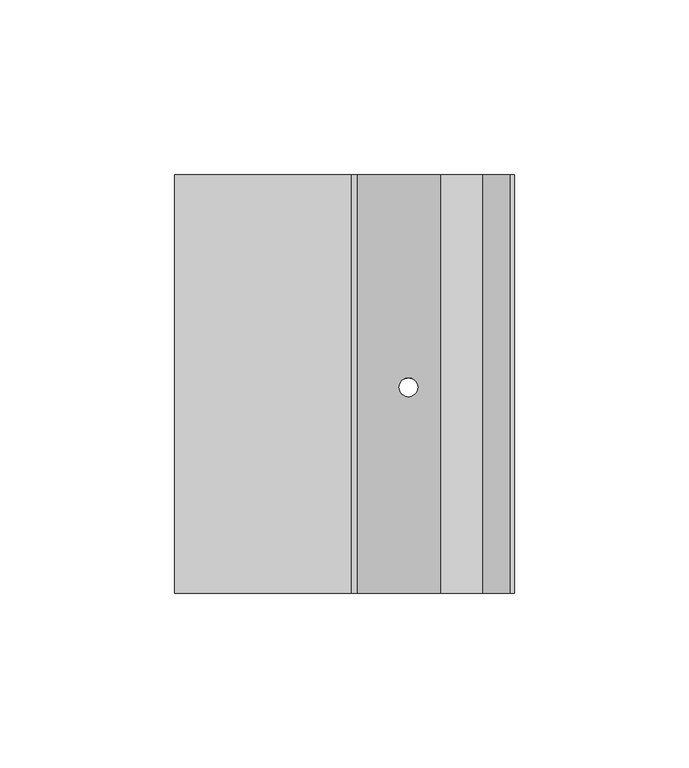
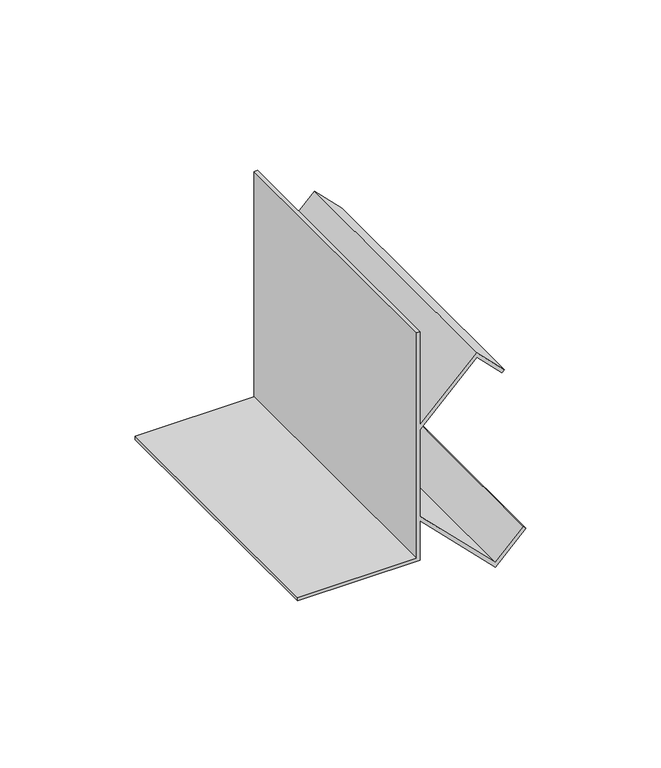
"""IFC4 building model written with IfcOpenShell, lengths in millimetres: proxy geometry, Mechanical Fittings & Accessories32 : Mechanical Fittings & Accessories."""

from ifc_helpers import new_model, si_unit, frame, origin, place, context, project, spatial, polyline, ellipse_curve, source, transform, mapped, element, save
from ifc_brep_helpers import plane_surface, revolved_surface, advanced_brep


def generic_models_84ba3c52(model_context):
    return source(origin(), model_context, "Body", "AdvancedBrep", [
        advanced_brep(
        [(-14670.9639562, 2079.4963986, 4114.8), (-14721.7639562, 2079.4963986, 4114.8), (-14721.7639562, 2079.4963986, 4113.3117188), (-14669.475675, 2079.4963986, 4113.3117188), (-14669.475675, 2079.4963986, 4131.1383509), (-14637.365914, 2079.4963986, 4099.0285899), (-14624.3869427, 2079.4963986, 4112.0075612), (-14625.4393164, 2079.4963986, 4113.059935), (-14637.365914, 2079.4963986, 4101.1333374), (-14669.475675, 2079.4963986, 4133.2430984), (-14669.475675, 2079.4963986, 4172.2761118), (-14645.303414, 2079.4963986, 4196.4483729), (-14634.5674414, 2079.4963986, 4185.7124003), (-14633.5150677, 2079.4963986, 4186.7647741), (-14645.303414, 2079.4963986, 4198.5531204), (-14669.475675, 2079.4963986, 4174.3808594), (-14669.475675, 2079.4963986, 4216.4), (-14670.9639562, 2079.4963986, 4216.4), (-14670.9639562, 2199.4645457, 4114.8), (-14670.9639562, 2199.4645457, 4216.4), (-14669.475675, 2199.4645457, 4216.4), (-14669.475675, 2199.4645457, 4174.3808594), (-14645.303414, 2199.4645457, 4198.5531204), (-14633.5150677, 2199.4645457, 4186.7647741), (-14634.5674414, 2199.4645457, 4185.7124003), (-14645.303414, 2199.4645457, 4196.4483729), (-14669.475675, 2199.4645457, 4172.2761118), (-14669.475675, 2199.4645457, 4133.2430984), (-14637.365914, 2199.4645457, 4101.1333374), (-14625.4393164, 2199.4645457, 4113.059935), (-14624.3869427, 2199.4645457, 4112.0075612), (-14637.365914, 2199.4645457, 4099.0285899), (-14669.475675, 2199.4645457, 4131.1383509), (-14669.475675, 2199.4645457, 4113.3117188), (-14721.7639562, 2199.4645457, 4113.3117188), (-14721.7639562, 2199.4645457, 4114.8), (-14657.3617646, 2138.5191481, 4119.0244406), (-14652.0223978, 2138.5191481, 4113.6850737), (-14652.0223978, 2138.5191481, 4115.7898213), (-14657.3617646, 2138.5191481, 4121.1291881), (-14657.3617646, 2138.5191481, 4184.3900222), (-14652.0223978, 2138.5191481, 4189.729389), (-14652.0223978, 2138.5191481, 4191.8341365), (-14657.3617646, 2138.5191481, 4186.4947697)],
        [
            (0, 1),
            (1, 2),
            (2, 3),
            (3, 4),
            (4, 5),
            (5, 6),
            (6, 7),
            (7, 8),
            (8, 9),
            (9, 10),
            (10, 11),
            (11, 12),
            (12, 13),
            (13, 14),
            (14, 15),
            (15, 16),
            (16, 17),
            (17, 0),
            (18, 19),
            (19, 20),
            (20, 21),
            (21, 22),
            (22, 23),
            (23, 24),
            (24, 25),
            (25, 26),
            (26, 27),
            (27, 28),
            (28, 29),
            (29, 30),
            (30, 31),
            (31, 32),
            (32, 33),
            (33, 34),
            (34, 35),
            (35, 18),
            (0, 18),
            (35, 1),
            (34, 2),
            (33, 3),
            (32, 4),
            (31, 5),
            (36, 37, ellipse_curve(frame((-14654.6920812, 2138.5191481, 4116.3547571), z_axis=(0.7071067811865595, 0.0, 0.7071067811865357), x_axis=(-0.7071067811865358, 0.0, 0.7071067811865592)), 3.7755025, 2.6696834)),
            (37, 36, ellipse_curve(frame((-14654.6920812, 2138.5191481, 4116.3547571), z_axis=(0.7071067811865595, 0.0, 0.7071067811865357), x_axis=(-0.7071067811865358, 0.0, 0.7071067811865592)), 3.7755025, 2.6696834)),
            (30, 6),
            (29, 7),
            (28, 8),
            (27, 9),
            (38, 39, ellipse_curve(frame((-14654.6920812, 2138.5191481, 4118.4595047), z_axis=(-0.7071067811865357, 0.0, -0.7071067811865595), x_axis=(-0.7071067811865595, 0.0, 0.7071067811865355)), 3.7755025, 2.6696834)),
            (39, 38, ellipse_curve(frame((-14654.6920812, 2138.5191481, 4118.4595047), z_axis=(-0.7071067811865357, 0.0, -0.7071067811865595), x_axis=(-0.7071067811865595, 0.0, 0.7071067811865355)), 3.7755025, 2.6696834)),
            (26, 10),
            (25, 11),
            (40, 41, ellipse_curve(frame((-14654.6920812, 2138.5191481, 4187.0597056), z_axis=(-0.7071067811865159, 0.0, 0.7071067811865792), x_axis=(0.7071067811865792, 0.0, 0.7071067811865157)), 3.7755025, 2.6696834)),
            (41, 40, ellipse_curve(frame((-14654.6920812, 2138.5191481, 4187.0597056), z_axis=(-0.7071067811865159, 0.0, 0.7071067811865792), x_axis=(0.7071067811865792, 0.0, 0.7071067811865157)), 3.7755025, 2.6696834)),
            (24, 12),
            (23, 13),
            (22, 14),
            (21, 15),
            (42, 43, ellipse_curve(frame((-14654.6920812, 2138.5191481, 4189.1644531), z_axis=(0.7071067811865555, 0.0, -0.7071067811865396), x_axis=(0.7071067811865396, 0.0, 0.7071067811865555)), 3.7755025, 2.6696834)),
            (43, 42, ellipse_curve(frame((-14654.6920812, 2138.5191481, 4189.1644531), z_axis=(0.7071067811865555, 0.0, -0.7071067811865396), x_axis=(0.7071067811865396, 0.0, 0.7071067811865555)), 3.7755025, 2.6696834)),
            (20, 16),
            (19, 17),
            (36, 39),
            (38, 37),
            (40, 43),
            (42, 41),
        ],
        [
            plane_surface(frame((-14721.7639562, 2079.4963986, 4114.8), z_axis=(0.0, -1.0, 0.0), x_axis=(-1.0, 0.0, 0.0))),
            plane_surface(frame((-14721.7639562, 2199.4645457, 4114.8), z_axis=(0.0, 1.0, 0.0), x_axis=(1.0, 0.0, 0.0))),
            plane_surface(frame((-14670.9639562, 2079.4963986, 4114.8), z_axis=(0.0, 0.0, 1.0), x_axis=(0.0, 1.0, 0.0))),
            plane_surface(frame((-14721.7639562, 2079.4963986, 4114.8), z_axis=(-1.0, 0.0, 0.0), x_axis=(0.0, 1.0, 0.0))),
            plane_surface(frame((-14721.7639562, 2079.4963986, 4113.3117188), z_axis=(0.0, 0.0, -1.0), x_axis=(0.0, 1.0, 0.0))),
            plane_surface(frame((-14669.475675, 2079.4963986, 4113.3117188), z_axis=(1.0, 0.0, 0.0), x_axis=(0.0, 1.0, 0.0))),
            plane_surface(frame((-14669.475675, 2079.4963986, 4131.1383509), z_axis=(-0.7071067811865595, 0.0, -0.7071067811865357), x_axis=(0.0, 1.0, 0.0))),
            plane_surface(frame((-14637.365914, 2079.4963986, 4099.0285899), z_axis=(0.7071067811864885, 0.0, -0.7071067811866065), x_axis=(0.0, 1.0, 0.0))),
            plane_surface(frame((-14624.3869427, 2079.4963986, 4112.0075612), z_axis=(0.7071067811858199, 0.0, 0.7071067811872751), x_axis=(0.0, 1.0, 0.0))),
            plane_surface(frame((-14625.4393164, 2079.4963986, 4113.059935), z_axis=(-0.7071067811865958, 0.0, 0.7071067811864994), x_axis=(0.0, 1.0, 0.0))),
            plane_surface(frame((-14637.365914, 2079.4963986, 4101.1333374), z_axis=(0.7071067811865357, 0.0, 0.7071067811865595), x_axis=(0.0, 1.0, 0.0))),
            plane_surface(frame((-14669.475675, 2079.4963986, 4133.2430984), z_axis=(1.0, 0.0, 0.0), x_axis=(0.0, 1.0, 0.0))),
            plane_surface(frame((-14669.475675, 2079.4963986, 4172.2761118), z_axis=(0.7071067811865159, 0.0, -0.7071067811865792), x_axis=(0.0, 1.0, 0.0))),
            plane_surface(frame((-14645.303414, 2079.4963986, 4196.4483729), z_axis=(-0.7071067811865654, 0.0, -0.7071067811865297), x_axis=(0.0, 1.0, 0.0))),
            plane_surface(frame((-14634.5674414, 2079.4963986, 4185.7124003), z_axis=(0.7071067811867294, 0.0, -0.7071067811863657), x_axis=(0.0, 1.0, 0.0))),
            plane_surface(frame((-14633.5150677, 2079.4963986, 4186.7647741), z_axis=(0.707106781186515, 0.0, 0.70710678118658), x_axis=(0.0, 1.0, 0.0))),
            plane_surface(frame((-14645.303414, 2079.4963986, 4198.5531204), z_axis=(-0.7071067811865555, 0.0, 0.7071067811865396), x_axis=(0.0, 1.0, 0.0))),
            plane_surface(frame((-14669.475675, 2079.4963986, 4174.3808594), z_axis=(1.0, 0.0, 0.0), x_axis=(0.0, 1.0, 0.0))),
            plane_surface(frame((-14669.475675, 2079.4963986, 4216.4), z_axis=(0.0, 0.0, 1.0), x_axis=(0.0, 1.0, 0.0))),
            plane_surface(frame((-14670.9639562, 2079.4963986, 4216.4), z_axis=(-1.0, 0.0, 0.0), x_axis=(0.0, 1.0, 0.0))),
            revolved_surface(polyline([(-14652.022397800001, 2138.5191481, 4121.129188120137), (-14652.022397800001, 2138.5191481, 4113.685073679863)]), (-14654.6920812, 2138.5191481, 4097.2034211), (0.0, 0.0, 1.0)),
            revolved_surface(polyline([(-14652.022397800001, 2138.5191481, 4191.834136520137), (-14652.022397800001, 2138.5191481, 4184.390022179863)]), (-14654.6920812, 2138.5191481, 4097.2034211), (0.0, 0.0, 1.0)),
        ],
        [
            (0, [[1, 2, 3, 4, 5, 6, 7, 8, 9, 10, 11, 12, 13, 14, 15, 16, 17, 18]]),
            (1, [[19, 20, 21, 22, 23, 24, 25, 26, 27, 28, 29, 30, 31, 32, 33, 34, 35, 36]]),
            (2, [[-1, 37, -36, 38]]),
            (3, [[-2, -38, -35, 39]]),
            (4, [[-3, -39, -34, 40]]),
            (5, [[-4, -40, -33, 41]]),
            (6, [[-5, -41, -32, 42], [43, 44]]),
            (7, [[-6, -42, -31, 45]]),
            (8, [[-7, -45, -30, 46]]),
            (9, [[-8, -46, -29, 47]]),
            (10, [[-9, -47, -28, 48], [49, 50]]),
            (11, [[-10, -48, -27, 51]]),
            (12, [[-11, -51, -26, 52], [53, 54]]),
            (13, [[-12, -52, -25, 55]]),
            (14, [[-13, -55, -24, 56]]),
            (15, [[-14, -56, -23, 57]]),
            (16, [[-15, -57, -22, 58], [59, 60]]),
            (17, [[-16, -58, -21, 61]]),
            (18, [[-17, -61, -20, 62]]),
            (19, [[-18, -62, -19, -37]]),
            (20, [[63, -49, 64, -43]]),
            (21, [[65, -59, 66, -53]]),
            (20, [[-63, -44, -64, -50]]),
            (21, [[-65, -54, -66, -60]]),
        ],
    ),
    ])


if __name__ == "__main__":
    model = new_model("IFC4")
    model_context = context("Model", 3, world=origin())
    ifc_project = project(units=[si_unit("LENGTHUNIT", "METRE", prefix="MILLI")], contexts=[model_context])
    site = spatial("IfcSite", under=ifc_project)
    building = spatial("IfcBuilding", under=site)
    placement = place(None, origin())
    generic_models_shape = generic_models_84ba3c52(model_context)
    element("IfcBuildingElementProxy", 1, Name="Mechanical Fittings & Accessories32 : Mechanical Fittings & Accessories", ObjectType="Mechanical Fittings & Accessories32 : Mechanical Fittings & Accessories", at=placement, inside=building, context=model_context, shape_type="MappedRepresentation", body=[
        mapped(generic_models_shape, transform((0.0, 0.0, 0.0), x_axis=(1.0, 0.0, 0.0), y_axis=(0.0, 1.0, 0.0), z_axis=(0.0, 0.0, 1.0))),
    ])
    save(model, "model.ifc")
